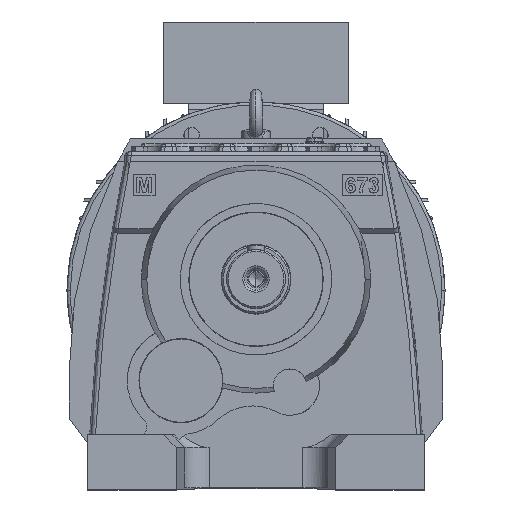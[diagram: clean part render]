
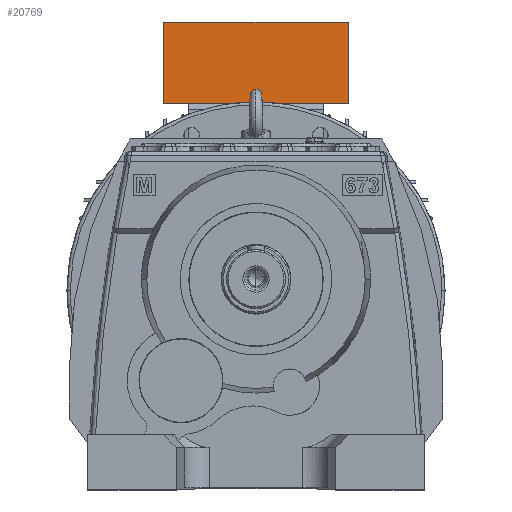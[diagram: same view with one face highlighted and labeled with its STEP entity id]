
A CAD part, top view. The second image highlights one B-rep face of the part: STEP entity #20769.
In plain terms, the highlighted planar face has unit normal (0, 0, 1).
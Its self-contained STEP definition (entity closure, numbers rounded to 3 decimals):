
#6560 = ORIENTED_EDGE ( 'NONE', *, *, #18865, .F. ) ;
#6590 = ORIENTED_EDGE ( 'NONE', *, *, #18740, .F. ) ;
#6594 = ORIENTED_EDGE ( 'NONE', *, *, #18744, .T. ) ;
#6839 = VECTOR ( 'NONE', #66688, 1000. ) ;
#6843 = VECTOR ( 'NONE', #66711, 1000. ) ;
#6863 = VECTOR ( 'NONE', #66659, 1000. ) ;
#6865 = LINE ( 'NONE', #66706, #6843 ) ;
#6905 = LINE ( 'NONE', #66709, #6863 ) ;
#6936 = LINE ( 'NONE', #66747, #6839 ) ;
#7031 = LINE ( 'NONE', #67077, #7063 ) ;
#7063 = VECTOR ( 'NONE', #67085, 1000. ) ;
#14140 = VERTEX_POINT ( 'NONE', #37640 ) ;
#14152 = VERTEX_POINT ( 'NONE', #37655 ) ;
#14154 = VERTEX_POINT ( 'NONE', #37667 ) ;
#14170 = VERTEX_POINT ( 'NONE', #37751 ) ;
#18740 = EDGE_CURVE ( 'NONE', #14152, #14154, #6905, .T. ) ;
#18742 = EDGE_CURVE ( 'NONE', #14154, #14140, #6936, .T. ) ;
#18744 = EDGE_CURVE ( 'NONE', #14152, #14170, #6865, .T. ) ;
#18865 = EDGE_CURVE ( 'NONE', #14140, #14170, #7031, .T. ) ;
#20769 = ADVANCED_FACE ( 'NONE', ( #72073 ), #70931, .F. ) ;
#37640 = CARTESIAN_POINT ( 'NONE',  ( 110., 320., -14.5 ) ) ;
#37655 = CARTESIAN_POINT ( 'NONE',  ( -110., 223., -14.5 ) ) ;
#37667 = CARTESIAN_POINT ( 'NONE',  ( -110., 320., -14.5 ) ) ;
#37751 = CARTESIAN_POINT ( 'NONE',  ( 110., 223., -14.5 ) ) ;
#39982 = AXIS2_PLACEMENT_3D ( 'NONE', #70933, #70936, #70980 ) ;
#59620 = ORIENTED_EDGE ( 'NONE', *, *, #18742, .F. ) ;
#66659 = DIRECTION ( 'NONE',  ( 0., 1., 0. ) ) ;
#66688 = DIRECTION ( 'NONE',  ( 1., 0., 0. ) ) ;
#66706 = CARTESIAN_POINT ( 'NONE',  ( 110., 223., -14.5 ) ) ;
#66709 = CARTESIAN_POINT ( 'NONE',  ( -110., 320., -14.5 ) ) ;
#66711 = DIRECTION ( 'NONE',  ( 1., 0., 0. ) ) ;
#66747 = CARTESIAN_POINT ( 'NONE',  ( 110., 320., -14.5 ) ) ;
#67077 = CARTESIAN_POINT ( 'NONE',  ( 110., 320., -14.5 ) ) ;
#67085 = DIRECTION ( 'NONE',  ( 0., -1., 0. ) ) ;
#68063 = EDGE_LOOP ( 'NONE', ( #59620, #6590, #6594, #6560 ) ) ;
#70931 = PLANE ( 'NONE',  #39982 ) ;
#70933 = CARTESIAN_POINT ( 'NONE',  ( 110., 320., -14.5 ) ) ;
#70936 = DIRECTION ( 'NONE',  ( 0., 0., -1. ) ) ;
#70980 = DIRECTION ( 'NONE',  ( -1., 0., 0. ) ) ;
#72073 = FACE_OUTER_BOUND ( 'NONE', #68063, .T. ) ;
